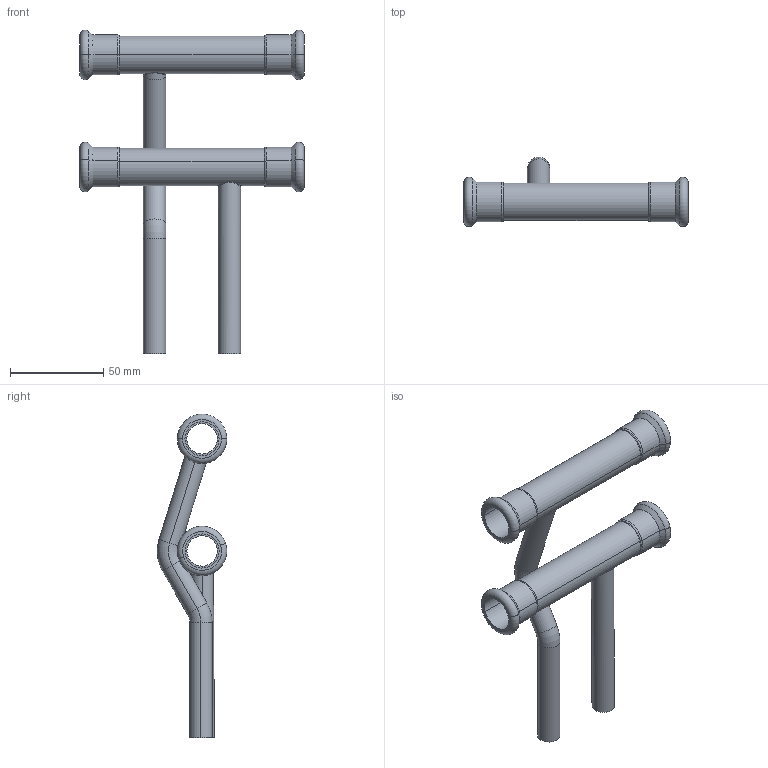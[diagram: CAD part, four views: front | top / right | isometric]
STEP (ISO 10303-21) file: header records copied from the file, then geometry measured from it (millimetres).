
FILE_DESCRIPTION(('CoCreate Modeling STEP Export'),'2;1');
FILE_NAME('C1437 18x12.stp','2015-08-13T 9:22:01',(''),(''),'CoCreate Modeling STEP processor for AP214 (Solid Model)','CoCreate Modeling 17.00A 17-Jun-2010 (C) Parametric Technology GmbH','');
FILE_SCHEMA(('AUTOMOTIVE_DESIGN { 1 0 10303 214 1 1 1 1 }'));
Length unit declared in the file: millimetre
Products named in the file (4): 620867.5.1.2; 620867.5.1.1.1; 620857.6.1.2; C1437-18x12
Assembly tree (3 placements, depth 2):
  C1437-18x12
    620857.6.1.2
    620867.5.1.1.1
    620867.5.1.2
Bounding box: 120 x 37.26 x 173.28 mm (x, y, z)
Volume: 37376.9 mm3; surface area: 46533.2 mm2
Topology: 3 solids, 3 shells, 112 faces, 234 edges, 138 vertices
Faces by surface type: cylinder 52, torus 24, plane 16, cone 16, bspline 4
Entity records: 6505 total; most frequent: CARTESIAN_POINT 4348, ORIENTED_EDGE 468, DIRECTION 380, EDGE_CURVE 234, AXIS2_PLACEMENT_3D 156, VERTEX_POINT 138, EDGE_LOOP 132, FACE_OUTER_BOUND 112
